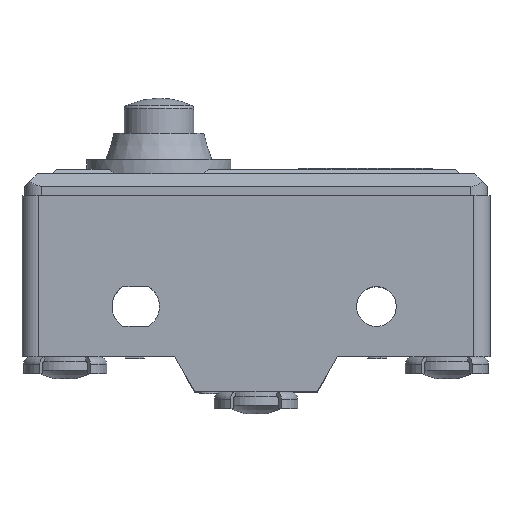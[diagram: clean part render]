
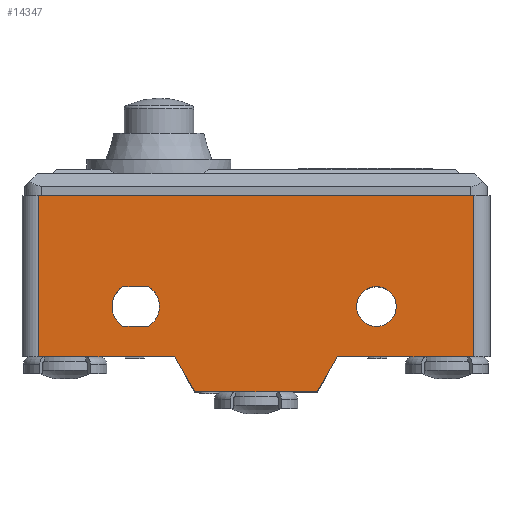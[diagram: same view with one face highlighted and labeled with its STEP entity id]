
A CAD part, top view. The second image highlights one B-rep face of the part: STEP entity #14347.
In plain terms, the highlighted planar face has unit normal (0, 0, 1).
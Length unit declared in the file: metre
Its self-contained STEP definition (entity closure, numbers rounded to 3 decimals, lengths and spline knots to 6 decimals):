
#11659=CARTESIAN_POINT('',(0.009183,-0.003065,0.05825));
#11660=VERTEX_POINT('',#11659);
#11663=CARTESIAN_POINT('',(0.007047,-0.006765,0.05825));
#11664=DIRECTION('',(0.5,0.866,0.));
#11665=VECTOR('',#11664,1.);
#11666=LINE('',#11663,#11665);
#11667=CARTESIAN_POINT('',(0.007047,-0.006765,0.05825));
#11668=VERTEX_POINT('',#11667);
#11669=EDGE_CURVE('',#11668,#11660,#11666,.T.);
#12445=CARTESIAN_POINT('',(-0.00588,-0.006765,0.05825));
#12446=DIRECTION('',(1.,0.,0.));
#12447=VECTOR('',#12446,1.);
#12448=LINE('',#12445,#12447);
#12449=CARTESIAN_POINT('',(-0.00588,-0.006765,0.05825));
#12450=VERTEX_POINT('',#12449);
#12451=EDGE_CURVE('',#12450,#11668,#12448,.T.);
#12515=CARTESIAN_POINT('',(-0.008017,-0.003065,0.05825));
#12516=DIRECTION('',(0.5,-0.866,0.));
#12517=VECTOR('',#12516,1.);
#12518=LINE('',#12515,#12517);
#12519=CARTESIAN_POINT('',(-0.008017,-0.003065,0.05825));
#12520=VERTEX_POINT('',#12519);
#12521=EDGE_CURVE('',#12520,#12450,#12518,.T.);
#13956=CARTESIAN_POINT('',(-0.024117,-0.003065,0.05825));
#13957=DIRECTION('',(1.,0.,0.));
#13958=VECTOR('',#13957,1.);
#13959=LINE('',#13956,#13958);
#13960=CARTESIAN_POINT('',(-0.022367,-0.003065,0.05825));
#13961=VERTEX_POINT('',#13960);
#13962=EDGE_CURVE('',#13961,#12520,#13959,.T.);
#14072=CARTESIAN_POINT('',(-0.022367,0.013935,0.05825));
#14073=VERTEX_POINT('',#14072);
#14078=CARTESIAN_POINT('',(-0.022367,0.001535,0.05825));
#14079=DIRECTION('',(0.,-1.,0.));
#14080=VECTOR('',#14079,1.);
#14081=LINE('',#14078,#14080);
#14082=EDGE_CURVE('',#14073,#13961,#14081,.T.);
#14105=CARTESIAN_POINT('',(0.023533,-0.003065,0.05825));
#14106=VERTEX_POINT('',#14105);
#14124=CARTESIAN_POINT('',(0.023533,0.013935,0.05825));
#14125=VERTEX_POINT('',#14124);
#14128=CARTESIAN_POINT('',(0.023533,0.001535,0.05825));
#14129=DIRECTION('',(0.,1.,0.));
#14130=VECTOR('',#14129,1.);
#14131=LINE('',#14128,#14130);
#14132=EDGE_CURVE('',#14106,#14125,#14131,.T.);
#14165=CARTESIAN_POINT('',(-0.013473,0.004335,0.05825));
#14166=VERTEX_POINT('',#14165);
#14169=CARTESIAN_POINT('',(-0.012117,0.002235,0.05825));
#14170=DIRECTION('',(0.,0.,1.));
#14171=DIRECTION('',(1.,0.,0.));
#14172=AXIS2_PLACEMENT_3D('',#14169,#14170,#14171);
#14173=CIRCLE('',#14172,0.0025);
#14174=CARTESIAN_POINT('',(-0.013473,0.000135,0.05825));
#14175=VERTEX_POINT('',#14174);
#14176=EDGE_CURVE('',#14166,#14175,#14173,.T.);
#14209=CARTESIAN_POINT('',(-0.01076,0.000135,0.05825));
#14210=DIRECTION('',(1.,0.,0.));
#14211=VECTOR('',#14210,1.);
#14212=LINE('',#14209,#14211);
#14213=CARTESIAN_POINT('',(-0.01076,0.000135,0.05825));
#14214=VERTEX_POINT('',#14213);
#14215=EDGE_CURVE('',#14175,#14214,#14212,.T.);
#14239=CARTESIAN_POINT('',(-0.012117,0.002235,0.05825));
#14240=DIRECTION('',(0.,0.,1.));
#14241=DIRECTION('',(1.,0.,0.));
#14242=AXIS2_PLACEMENT_3D('',#14239,#14240,#14241);
#14243=CIRCLE('',#14242,0.0025);
#14244=CARTESIAN_POINT('',(-0.01076,0.004335,0.05825));
#14245=VERTEX_POINT('',#14244);
#14246=EDGE_CURVE('',#14214,#14245,#14243,.T.);
#14281=CARTESIAN_POINT('',(-0.01076,0.004335,0.05825));
#14282=DIRECTION('',(-1.,0.,0.));
#14283=VECTOR('',#14282,1.);
#14284=LINE('',#14281,#14283);
#14285=EDGE_CURVE('',#14245,#14166,#14284,.T.);
#14305=CARTESIAN_POINT('',(0.013923,0.001535,0.05825));
#14306=DIRECTION('',(0.,0.,-1.));
#14307=DIRECTION('',(-1.,0.,0.));
#14308=AXIS2_PLACEMENT_3D('',#14305,#14306,#14307);
#14309=PLANE('',#14308);
#14310=ORIENTED_EDGE('',*,*,#14285,.F.);
#14311=ORIENTED_EDGE('',*,*,#14246,.F.);
#14312=ORIENTED_EDGE('',*,*,#14215,.F.);
#14313=ORIENTED_EDGE('',*,*,#14176,.F.);
#14314=EDGE_LOOP('',(#14310,#14311,#14312,#14313));
#14315=FACE_BOUND('',#14314,.T.);
#14316=CARTESIAN_POINT('',(0.013283,0.002235,0.05825));
#14317=DIRECTION('',(0.,0.,1.));
#14318=DIRECTION('',(1.,0.,0.));
#14319=AXIS2_PLACEMENT_3D('',#14316,#14317,#14318);
#14320=CIRCLE('',#14319,0.0021);
#14321=CARTESIAN_POINT('',(0.011183,0.002235,0.05825));
#14322=VERTEX_POINT('',#14321);
#14323=EDGE_CURVE('',#14322,#14322,#14320,.T.);
#14324=ORIENTED_EDGE('',*,*,#14323,.F.);
#14325=EDGE_LOOP('',(#14324));
#14326=FACE_BOUND('',#14325,.T.);
#14327=CARTESIAN_POINT('',(0.009183,-0.003065,0.05825));
#14328=DIRECTION('',(1.,0.,0.));
#14329=VECTOR('',#14328,1.);
#14330=LINE('',#14327,#14329);
#14331=EDGE_CURVE('',#11660,#14106,#14330,.T.);
#14332=ORIENTED_EDGE('',*,*,#14331,.T.);
#14333=ORIENTED_EDGE('',*,*,#14132,.T.);
#14334=CARTESIAN_POINT('',(0.025283,0.013935,0.05825));
#14335=DIRECTION('',(-1.,0.,0.));
#14336=VECTOR('',#14335,1.);
#14337=LINE('',#14334,#14336);
#14338=EDGE_CURVE('',#14125,#14073,#14337,.T.);
#14339=ORIENTED_EDGE('',*,*,#14338,.T.);
#14340=ORIENTED_EDGE('',*,*,#14082,.T.);
#14341=ORIENTED_EDGE('',*,*,#13962,.T.);
#14342=ORIENTED_EDGE('',*,*,#12521,.T.);
#14343=ORIENTED_EDGE('',*,*,#12451,.T.);
#14344=ORIENTED_EDGE('',*,*,#11669,.T.);
#14345=EDGE_LOOP('',(#14332,#14333,#14339,#14340,#14341,#14342,#14343,#14344));
#14346=FACE_BOUND('',#14345,.T.);
#14347=ADVANCED_FACE('',(#14315,#14326,#14346),#14309,.F.);
